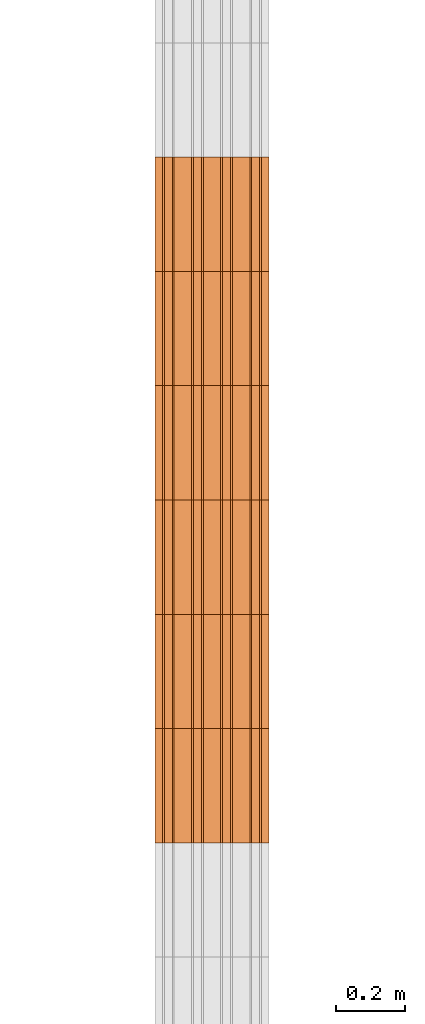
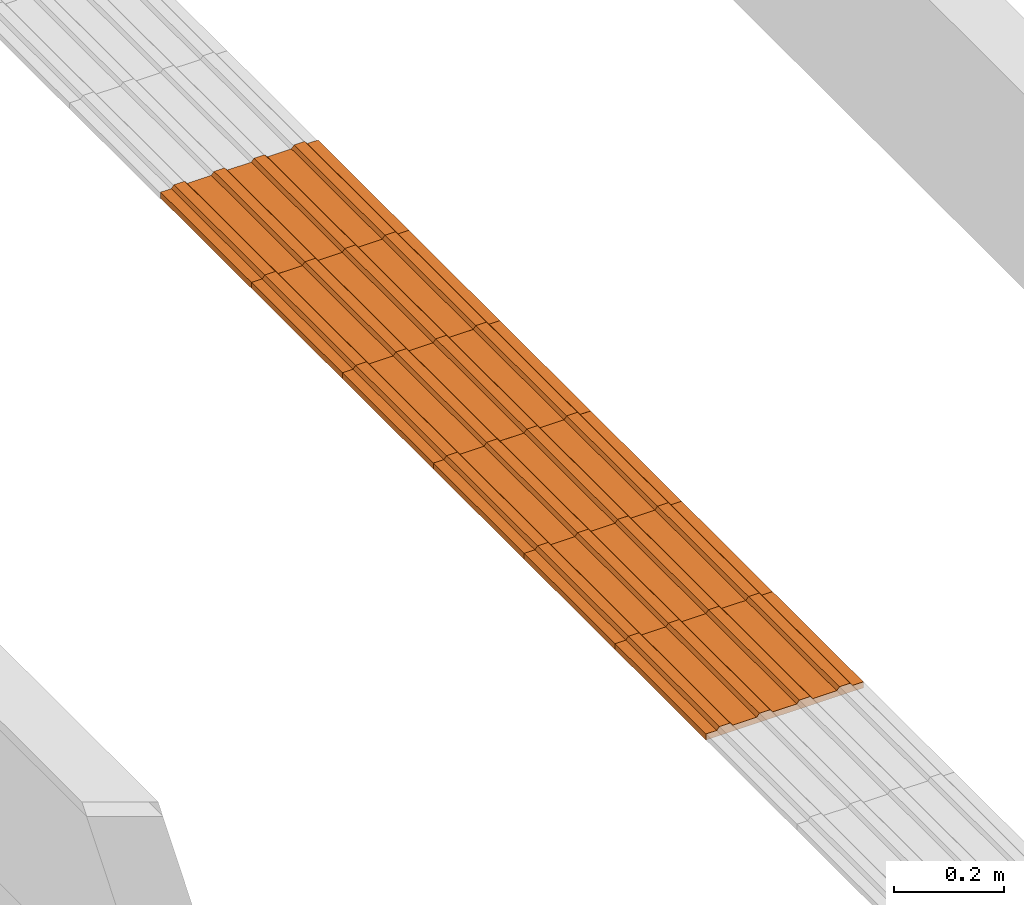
# One storey, part 196 of 237: 6 proxies.
"""IFC2X3 building model written with IfcOpenShell, lengths in millimetres."""

from ifc_helpers import new_model, entity, si_unit, converted_unit, derived_unit, money_unit, direction, frame, origin_with_axes, place, context, subcontext, project, spatial, open_shell, surface_model, source, transform, mapped, type_object, element, save


model = new_model("IFC2X3")

# Units and contexts
model_context = context("Model", 3, precision=0.01, world=origin_with_axes(), true_north=direction((0.0, 1.0)))
body_context = subcontext(model_context, "Body", "Model", "MODEL_VIEW")
ifc_project = project(units=[si_unit("LENGTHUNIT", "METRE", prefix="MILLI"), si_unit("AREAUNIT", "SQUARE_METRE"), si_unit("VOLUMEUNIT", "CUBIC_METRE"), converted_unit("PLANEANGLEUNIT", "DEGREE", entity("IfcPlaneAngleMeasure", 0.0174532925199), si_unit("PLANEANGLEUNIT", "RADIAN"), dimensions=[0, 0, 0, 0, 0, 0, 0]), money_unit("USD"), converted_unit("TIMEUNIT", "Year", entity("IfcTimeMeasure", 31556926.0), si_unit("TIMEUNIT", "SECOND"), dimensions=[0, 0, 1, 0, 0, 0, 0]), si_unit("MASSUNIT", "GRAM", prefix="KILO"), si_unit("THERMODYNAMICTEMPERATUREUNIT", "DEGREE_CELSIUS"), si_unit("LUMINOUSINTENSITYUNIT", "LUMEN"), si_unit("ENERGYUNIT", "JOULE", prefix="MEGA"), derived_unit("THERMALCONDUCTANCEUNIT", [(si_unit("POWERUNIT", "WATT"), 1), (si_unit("LENGTHUNIT", "METRE"), -1), (si_unit("THERMODYNAMICTEMPERATUREUNIT", "KELVIN"), -1)]), derived_unit("SPECIFICHEATCAPACITYUNIT", [(si_unit("ENERGYUNIT", "JOULE"), 1), (si_unit("MASSUNIT", "GRAM", prefix="KILO"), -1), (si_unit("THERMODYNAMICTEMPERATUREUNIT", "KELVIN"), -1)]), derived_unit("MASSDENSITYUNIT", [(si_unit("MASSUNIT", "GRAM", prefix="KILO"), 1), (si_unit("VOLUMEUNIT", "CUBIC_METRE"), -1)])], contexts=[model_context])

# Site, building, storey
site_placement = place(None, origin_with_axes())
site = spatial("IfcSite", under=ifc_project, at=site_placement, Name="Local", CompositionType="ELEMENT")
building_placement = place(site_placement, origin_with_axes())
building = spatial("IfcBuilding", under=site, at=building_placement, Name="Construção", CompositionType="ELEMENT")
storey_placement = place(building_placement, origin_with_axes())
storey = spatial("IfcBuildingStorey", under=building, at=storey_placement, Name="Pavimento Térreo", CompositionType="ELEMENT", Elevation=0.0)

# Proxies
building_element_proxy_type = type_object("IfcBuildingElementProxyType", Name="Piso Direcional 27", PredefinedType="NOTDEFINED")
shared_shape = source(origin_with_axes(), body_context, "Body", "SurfaceModel", [
    surface_model("IfcShellBasedSurfaceModel", [(0.0, -47.258225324, 4.02852049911), (330.0, -47.258225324, 4.02852049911), (330.0, -41.665004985, 10.6951871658), (0.0, -41.665004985, 10.6951871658)], [open_shell([[[0, 1, 2, 3]]])]),
    surface_model("IfcShellBasedSurfaceModel", [(330.0, -153.529411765, -9.30481283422), (330.0, 176.470588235, -9.30481283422), (330.0, 176.470588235, 4.02852049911), (330.0, 154.097706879, 4.02852049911), (330.0, 148.50448654, 10.6951871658), (330.0, 126.131605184, 10.6951871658), (330.0, 120.538384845, 4.02852049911), (330.0, 70.1994017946, 4.02852049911), (330.0, 64.6061814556, 10.6951871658), (330.0, 42.2333000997, 10.6951871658), (330.0, 36.6400797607, 4.02852049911), (330.0, -13.6989032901, 4.02852049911), (330.0, -19.2921236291, 10.6951871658), (330.0, -41.665004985, 10.6951871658), (330.0, -47.258225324, 4.02852049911), (330.0, -97.5972083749, 4.02852049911), (330.0, -103.190428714, 10.6951871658), (330.0, -125.56331007, 10.6951871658), (330.0, -131.156530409, 4.02852049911), (330.0, -153.529411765, 4.02852049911)], [open_shell([[[0, 1, 2, 3, 4, 5, 6, 7, 8, 9, 10, 11, 12, 13, 14, 15, 16, 17, 18, 19]]])]),
    surface_model("IfcShellBasedSurfaceModel", [(0.0, -19.2921236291, 10.6951871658), (330.0, -19.2921236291, 10.6951871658), (330.0, -13.6989032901, 4.02852049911), (0.0, -13.6989032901, 4.02852049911)], [open_shell([[[0, 1, 2, 3]]])]),
    surface_model("IfcShellBasedSurfaceModel", [(0.0, -103.190428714, 10.6951871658), (330.0, -103.190428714, 10.6951871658), (330.0, -97.5972083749, 4.02852049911), (0.0, -97.5972083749, 4.02852049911)], [open_shell([[[0, 1, 2, 3]]])]),
    surface_model("IfcShellBasedSurfaceModel", [(0.0, 64.6061814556, 10.6951871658), (330.0, 64.6061814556, 10.6951871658), (330.0, 70.1994017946, 4.02852049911), (0.0, 70.1994017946, 4.02852049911)], [open_shell([[[0, 1, 2, 3]]])]),
    surface_model("IfcShellBasedSurfaceModel", [(0.0, 36.6400797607, 4.02852049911), (330.0, 36.6400797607, 4.02852049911), (330.0, 42.2333000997, 10.6951871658), (0.0, 42.2333000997, 10.6951871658)], [open_shell([[[0, 1, 2, 3]]])]),
    surface_model("IfcShellBasedSurfaceModel", [(0.0, -131.156530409, 4.02852049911), (330.0, -131.156530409, 4.02852049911), (330.0, -125.56331007, 10.6951871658), (0.0, -125.56331007, 10.6951871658)], [open_shell([[[0, 1, 2, 3]]])]),
    surface_model("IfcShellBasedSurfaceModel", [(0.0, 176.470588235, 4.02852049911), (0.0, 154.097706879, 4.02852049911), (330.0, 154.097706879, 4.02852049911), (330.0, 176.470588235, 4.02852049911)], [open_shell([[[0, 1, 2, 3]]])]),
    surface_model("IfcShellBasedSurfaceModel", [(0.0, 120.538384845, 4.02852049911), (330.0, 120.538384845, 4.02852049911), (330.0, 126.131605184, 10.6951871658), (0.0, 126.131605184, 10.6951871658)], [open_shell([[[0, 1, 2, 3]]])]),
    surface_model("IfcShellBasedSurfaceModel", [(0.0, 148.50448654, 10.6951871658), (330.0, 148.50448654, 10.6951871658), (330.0, 154.097706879, 4.02852049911), (0.0, 154.097706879, 4.02852049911)], [open_shell([[[0, 1, 2, 3]]])]),
    surface_model("IfcShellBasedSurfaceModel", [(0.0, 36.6400797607, 4.02852049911), (0.0, -13.6989032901, 4.02852049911), (330.0, -13.6989032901, 4.02852049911), (330.0, 36.6400797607, 4.02852049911)], [open_shell([[[0, 1, 2, 3]]])]),
    surface_model("IfcShellBasedSurfaceModel", [(0.0, 120.538384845, 4.02852049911), (0.0, 70.1994017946, 4.02852049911), (330.0, 70.1994017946, 4.02852049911), (330.0, 120.538384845, 4.02852049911)], [open_shell([[[0, 1, 2, 3]]])]),
    surface_model("IfcShellBasedSurfaceModel", [(0.0, 148.50448654, 10.6951871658), (0.0, 126.131605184, 10.6951871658), (330.0, 126.131605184, 10.6951871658), (330.0, 148.50448654, 10.6951871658)], [open_shell([[[0, 1, 2, 3]]])]),
    surface_model("IfcShellBasedSurfaceModel", [(0.0, 120.538384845, 4.02852049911), (0.0, 126.131605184, 10.6951871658), (0.0, 148.50448654, 10.6951871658), (0.0, 154.097706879, 4.02852049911), (0.0, 176.470588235, 4.02852049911), (0.0, 176.470588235, -9.30481283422), (0.0, -153.529411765, -9.30481283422), (0.0, -153.529411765, 4.02852049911), (0.0, -131.156530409, 4.02852049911), (0.0, -125.56331007, 10.6951871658), (0.0, -103.190428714, 10.6951871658), (0.0, -97.5972083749, 4.02852049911), (0.0, -47.258225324, 4.02852049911), (0.0, -41.665004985, 10.6951871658), (0.0, -19.2921236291, 10.6951871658), (0.0, -13.6989032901, 4.02852049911), (0.0, 36.6400797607, 4.02852049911), (0.0, 42.2333000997, 10.6951871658), (0.0, 64.6061814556, 10.6951871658), (0.0, 70.1994017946, 4.02852049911)], [open_shell([[[0, 1, 2, 3, 4, 5, 6, 7, 8, 9, 10, 11, 12, 13, 14, 15, 16, 17, 18, 19]]])]),
    surface_model("IfcShellBasedSurfaceModel", [(330.0, -41.665004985, 10.6951871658), (330.0, -19.2921236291, 10.6951871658), (0.0, -19.2921236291, 10.6951871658), (0.0, -41.665004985, 10.6951871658)], [open_shell([[[0, 1, 2, 3]]])]),
    surface_model("IfcShellBasedSurfaceModel", [(0.0, -47.258225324, 4.02852049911), (0.0, -97.5972083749, 4.02852049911), (330.0, -97.5972083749, 4.02852049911), (330.0, -47.258225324, 4.02852049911)], [open_shell([[[0, 1, 2, 3]]])]),
    surface_model("IfcShellBasedSurfaceModel", [(330.0, 42.2333000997, 10.6951871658), (330.0, 64.6061814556, 10.6951871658), (0.0, 64.6061814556, 10.6951871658), (0.0, 42.2333000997, 10.6951871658)], [open_shell([[[0, 1, 2, 3]]])]),
    surface_model("IfcShellBasedSurfaceModel", [(330.0, -125.56331007, 10.6951871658), (330.0, -103.190428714, 10.6951871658), (0.0, -103.190428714, 10.6951871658), (0.0, -125.56331007, 10.6951871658)], [open_shell([[[0, 1, 2, 3]]])]),
    surface_model("IfcShellBasedSurfaceModel", [(330.0, 176.470588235, -9.30481283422), (0.0, 176.470588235, -9.30481283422), (0.0, 176.470588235, 4.02852049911), (330.0, 176.470588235, 4.02852049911)], [open_shell([[[0, 1, 2, 3]]])]),
    surface_model("IfcShellBasedSurfaceModel", [(330.0, -153.529411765, -9.30481283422), (0.0, -153.529411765, -9.30481283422), (0.0, 176.470588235, -9.30481283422), (330.0, 176.470588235, -9.30481283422)], [open_shell([[[0, 1, 2, 3]]])]),
    surface_model("IfcShellBasedSurfaceModel", [(330.0, -153.529411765, 4.02852049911), (330.0, -131.156530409, 4.02852049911), (0.0, -131.156530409, 4.02852049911), (0.0, -153.529411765, 4.02852049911)], [open_shell([[[0, 1, 2, 3]]])]),
    surface_model("IfcShellBasedSurfaceModel", [(0.0, -153.529411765, -9.30481283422), (330.0, -153.529411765, -9.30481283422), (330.0, -153.529411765, 4.02852049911), (0.0, -153.529411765, 4.02852049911)], [open_shell([[[0, 1, 2, 3]]])]),
])
for number, where, z_axis, x_axis, name in (
    (1, (135346.086311, 26023.4787078, -7938.92704592), (0.0, 0.0, 1.0), (0.0, -1.0, 0.0), "Objeto-0055"),
    (2, (135346.086311, 27343.606046, -7938.92704592), (0.0, 0.0, 1.0), (0.0, -1.0, 0.0), "Objeto-0055"),
    (3, (135346.086311, 27013.5742115, -7938.92704592), (0.0, 0.0, 1.0), (0.0, -1.0, 0.0), "Objeto-0055"),
    (4, (135346.086311, 26683.5423769, -7938.92704592), (0.0, 0.0, 1.0), (0.0, -1.0, 0.0), "Objeto-0055"),
    (5, (135346.086311, 26353.5105424, -7938.92704592), (0.0, 0.0, 1.0), (0.0, -1.0, 0.0), "Objeto-0055"),
    (6, (135346.086311, 25693.5086717, -7938.92704592), (0.0, 0.0, 1.0), (0.0, -1.0, 0.0), "Objeto-0055"),
):
    element("IfcBuildingElementProxy", number, at=place(storey_placement, frame(where, z_axis=z_axis, x_axis=x_axis)), inside=storey, type_object=building_element_proxy_type, Name=name, context=body_context, shape_type="MappedRepresentation", body=[
        mapped(shared_shape, transform((0.0, 0.0, 0.0))),
    ])

save(model, "model.ifc")
